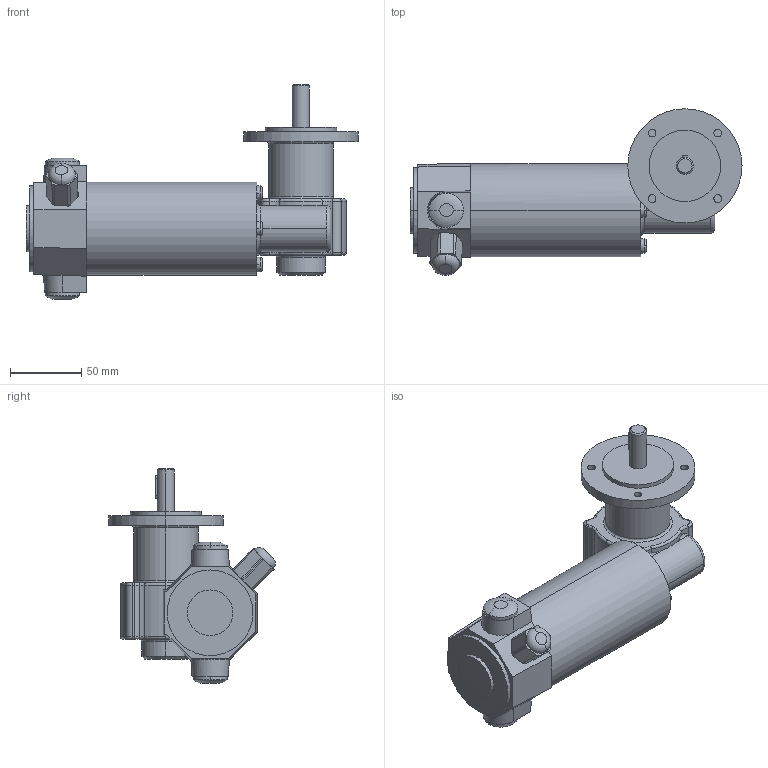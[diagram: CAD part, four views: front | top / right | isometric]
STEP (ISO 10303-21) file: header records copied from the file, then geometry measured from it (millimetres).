
FILE_DESCRIPTION(('OneSpaceDesigner STEP Export'),'2;1');
FILE_NAME('EPG04_GF127-10.stp','2008-07-02T14:47:25',(''),(''),'OneSpace Designer STEP processor (Jan. 2003) for AP214(CD)(Solid Model)','OneSpace Designer 12.01D 09-Jul-2004 (C) CoCreate Software GmbH','');
FILE_SCHEMA(('AUTOMOTIVE_DESIGN_CC2 {1 2 10303 214 -1 1 5 1}'));
Length unit declared in the file: millimetre
Products named in the file (2): EPG04_GF127-10
Assembly tree (1 placements, depth 2):
  EPG04_GF127-10
    EPG04_GF127-10
Bounding box: 232.5 x 116.58 x 150.5 mm (x, y, z)
Volume: 844350.3 mm3; surface area: 76692.4 mm2
Topology: 1 solids, 1 shells, 214 faces, 517 edges, 321 vertices
Faces by surface type: cylinder 85, torus 72, plane 51, cone 4, bspline 2
Entity records: 8084 total; most frequent: CARTESIAN_POINT 3540, ORIENTED_EDGE 1034, DIRECTION 861, EDGE_CURVE 517, AXIS2_PLACEMENT_3D 353, VERTEX_POINT 321, EDGE_LOOP 238, FACE_OUTER_BOUND 214
